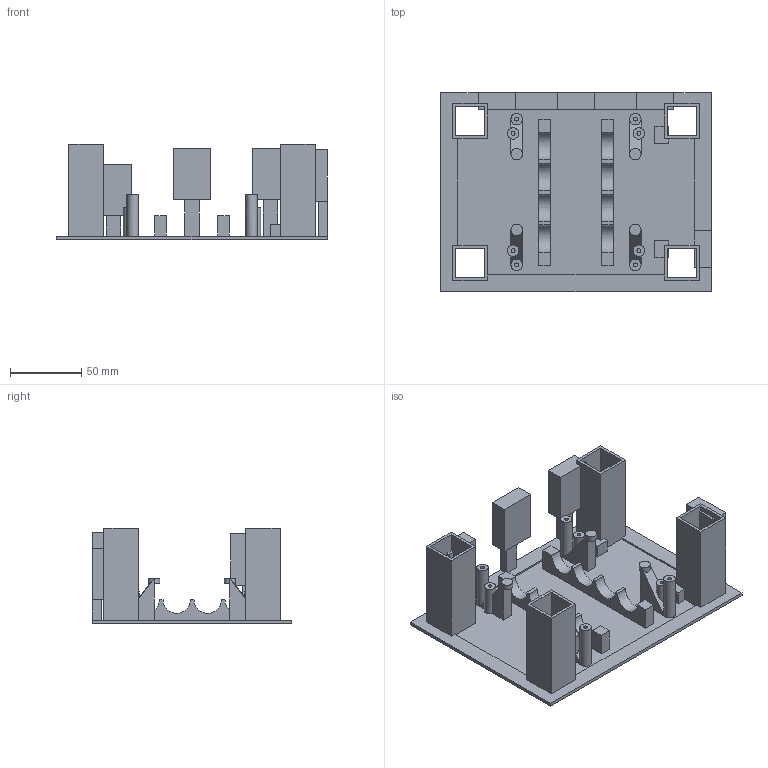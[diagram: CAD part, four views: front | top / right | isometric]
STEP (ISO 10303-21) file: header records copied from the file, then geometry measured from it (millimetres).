
FILE_DESCRIPTION(('Open CASCADE Model'),'2;1');
FILE_NAME('Open CASCADE Shape Model','2026-10-02T14:10:54',('Author'),( 'Open CASCADE'),'Open CASCADE STEP processor 8.0','build123d', 'Unknown');
FILE_SCHEMA(('AUTOMOTIVE_DESIGN { 1 0 10303 214 1 1 1 1 }'));
Length unit declared in the file: millimetre
Products named in the file (1): COMPOUND
Bounding box: 189.2 x 139.2 x 67.1 mm (x, y, z)
Volume: 171477.2 mm3; surface area: 126596.1 mm2
Topology: 1 solids, 1 shells, 281 faces, 754 edges, 492 vertices
Faces by surface type: plane 237, cylinder 44
Full cylindrical faces by diameter (mm): 2.7 x8, 4.4 x2, 8 x8
Entity records: 18180 total; most frequent: CARTESIAN_POINT 3840, DIRECTION 2380, ORIENTED_EDGE 1508, PCURVE 1508, DEFINITIONAL_REPRESENTATION 1508, LINE 1460, VECTOR 1460, EDGE_CURVE 754
